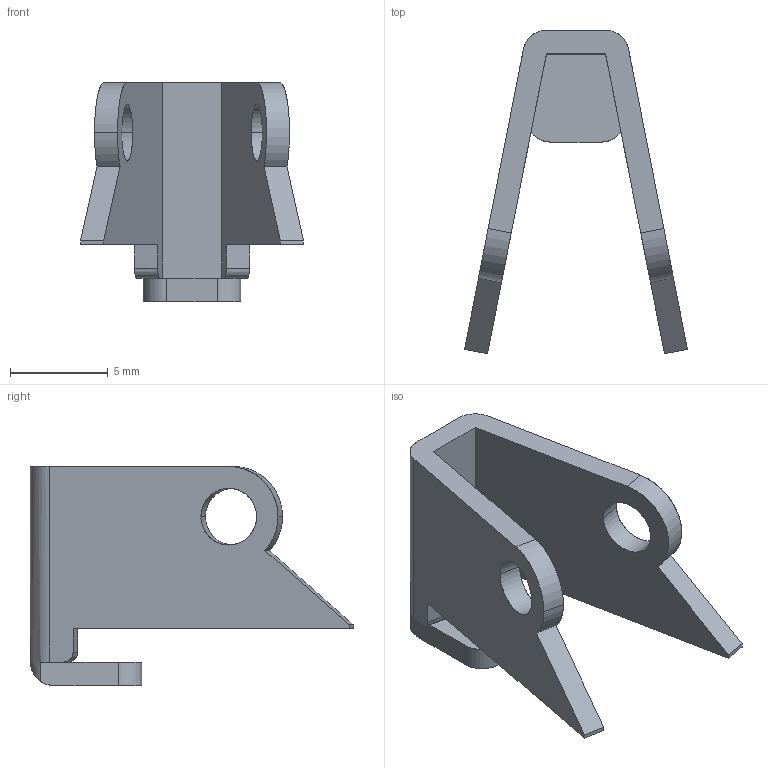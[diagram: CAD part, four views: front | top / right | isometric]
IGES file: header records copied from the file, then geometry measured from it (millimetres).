
Start section: SolidWorks IGES FILE using analytic representation for surfaces
Global section: file name: C:\Documents and Settings\lecoutey\Bureau\GP 2075\2075.060.00.IGS; native system: SolidWorks 2004 by SolidWorks Corporation; preprocessor: Version 5.3; author: lecoutey; date: 050329.161327; units: millimetre
Bounding box: 11.4 x 16.53 x 11.2 mm (x, y, z)
Surface area: 677.5 mm2 (no closed solid volume)
Topology: 0 solids, 0 shells, 36 faces, 416 edges, 416 vertices
Faces by surface type: bspline 22, revolution 14
